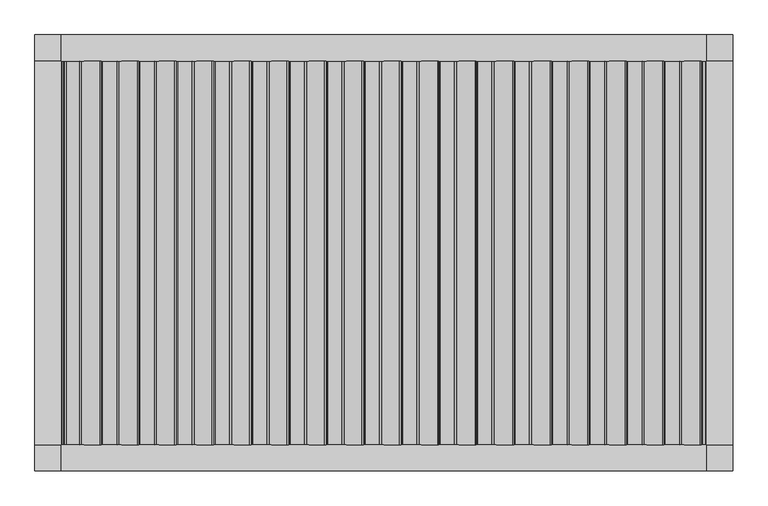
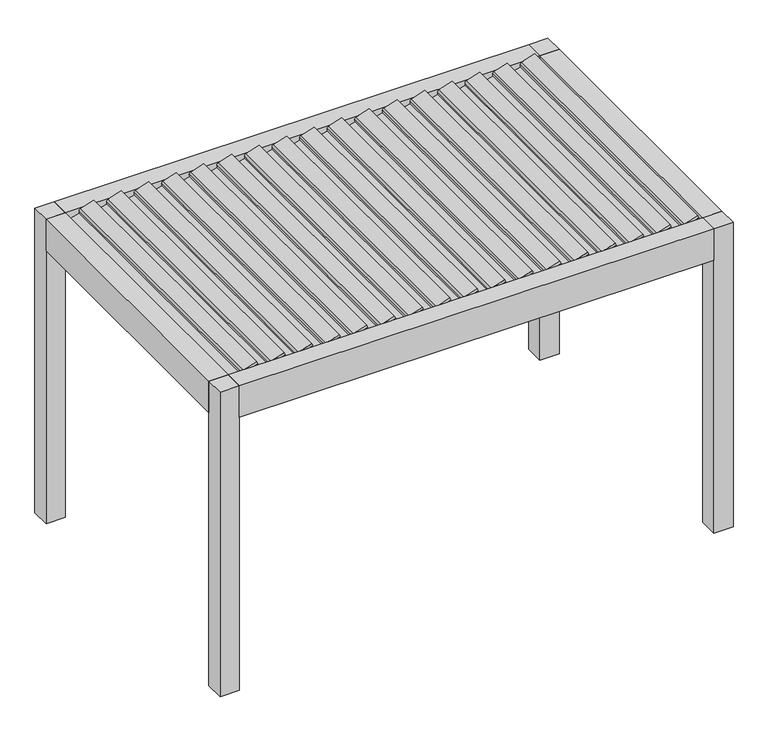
"""IFC4 building model written with IfcOpenShell, lengths in millimetres: proxy geometry, Renson_Camargue_Freestanding_Patio covers : Renson_Camargue_Freestanding_Patio covers."""

from ifc_helpers import new_model, si_unit, point, frame, frame_2d, origin, origin_with_axes, place, context, project, spatial, polyline, circle_curve, trimmed, segment, composite_curve, outline, extrude, source, transform, mapped, element, save


def generic_models_1ebb2ca0(model_context):
    return source(origin(), model_context, "Body", "SweptSolid", [
        extrude(outline(composite_curve([segment(polyline([(2484.4863486, 1582.3167619), (2511.83214, 1577.4949611), (2520.6331137, 1604.9891952), (2538.5732957, 1596.6235509), (2505.0004395, 1491.7419777)]), True, "CONTINUOUS"), segment(trimmed(circle_curve(frame_2d((2490.7145025, 1496.3149422)), 15.0), [point((2505.0004395, 1491.7419777))], [point((2489.4071663, 1481.3720218))], False, "CARTESIAN"), True, "CONTINUOUS"), segment(polyline([(2489.4071663, 1481.3720218), (2469.9552563, 1483.0738434), (2447.2475665, 1398.3275914), (2462.9650208, 1390.9984221), (2458.3022482, 1376.4319246), (2430.6272255, 1381.3117778), (2484.4863486, 1582.3167619)]), True, "CONTINUOUS")], self_intersect=False)), frame((0.0, -1100.0, 0.0), z_axis=(0.0, 1.0, 0.0), x_axis=(0.0, 0.0, 1.0)), (0.0, 0.0, 1.0), 2200.0),
        extrude(outline(composite_curve([segment(polyline([(2484.4863486, 1367.3059571), (2511.83214, 1362.4841563), (2520.6331137, 1389.9783904), (2538.5732957, 1381.6127462), (2505.0004395, 1276.731173)]), True, "CONTINUOUS"), segment(trimmed(circle_curve(frame_2d((2490.7145025, 1281.3041375)), 15.0), [point((2505.0004395, 1276.731173))], [point((2489.4071663, 1266.361217))], False, "CARTESIAN"), True, "CONTINUOUS"), segment(polyline([(2489.4071663, 1266.361217), (2469.9552563, 1268.0630386), (2447.2475665, 1183.3167866), (2462.9650208, 1175.9876173), (2458.3022482, 1161.4211198), (2430.6272255, 1166.300973), (2484.4863486, 1367.3059571)]), True, "CONTINUOUS")], self_intersect=False)), frame((0.0, -1100.0, 0.0), z_axis=(0.0, 1.0, 0.0), x_axis=(0.0, 0.0, 1.0)), (0.0, 0.0, 1.0), 2200.0),
        extrude(outline(composite_curve([segment(polyline([(2484.4863486, 1152.2951523), (2511.83214, 1147.4733515), (2520.6331137, 1174.9675857), (2538.5732957, 1166.6019414), (2505.0004395, 1061.7203682)]), True, "CONTINUOUS"), segment(trimmed(circle_curve(frame_2d((2490.7145025, 1066.2933327)), 15.0), [point((2505.0004395, 1061.7203682))], [point((2489.4071663, 1051.3504122))], False, "CARTESIAN"), True, "CONTINUOUS"), segment(polyline([(2489.4071663, 1051.3504122), (2469.9552563, 1053.0522338), (2447.2475665, 968.3059819), (2462.9650208, 960.9768125), (2458.3022482, 946.410315), (2430.6272255, 951.2901682), (2484.4863486, 1152.2951523)]), True, "CONTINUOUS")], self_intersect=False)), frame((0.0, -1100.0, 0.0), z_axis=(0.0, 1.0, 0.0), x_axis=(0.0, 0.0, 1.0)), (0.0, 0.0, 1.0), 2200.0),
        extrude(outline(composite_curve([segment(polyline([(2484.4863486, 937.2843475), (2511.83214, 932.4625467), (2520.6331137, 959.9567809), (2538.5732957, 951.5911366), (2505.0004395, 846.7095634)]), True, "CONTINUOUS"), segment(trimmed(circle_curve(frame_2d((2490.7145025, 851.2825279)), 15.0), [point((2505.0004395, 846.7095634))], [point((2489.4071663, 836.3396074))], False, "CARTESIAN"), True, "CONTINUOUS"), segment(polyline([(2489.4071663, 836.3396074), (2469.9552563, 838.041429), (2447.2475665, 753.2951771), (2462.9650208, 745.9660077), (2458.3022482, 731.3995103), (2430.6272255, 736.2793635), (2484.4863486, 937.2843475)]), True, "CONTINUOUS")], self_intersect=False)), frame((0.0, -1100.0, 0.0), z_axis=(0.0, 1.0, 0.0), x_axis=(0.0, 0.0, 1.0)), (0.0, 0.0, 1.0), 2200.0),
        extrude(outline(composite_curve([segment(polyline([(2484.4863486, 722.2735428), (2511.83214, 717.4517419), (2520.6331137, 744.9459761), (2538.5732957, 736.5803318), (2505.0004395, 631.6987586)]), True, "CONTINUOUS"), segment(trimmed(circle_curve(frame_2d((2490.7145025, 636.2717231)), 15.0), [point((2505.0004395, 631.6987586))], [point((2489.4071663, 621.3288026))], False, "CARTESIAN"), True, "CONTINUOUS"), segment(polyline([(2489.4071663, 621.3288026), (2469.9552563, 623.0306242), (2447.2475665, 538.2843723), (2462.9650208, 530.955203), (2458.3022482, 516.3887055), (2430.6272255, 521.2685587), (2484.4863486, 722.2735428)]), True, "CONTINUOUS")], self_intersect=False)), frame((0.0, -1100.0, 0.0), z_axis=(0.0, 1.0, 0.0), x_axis=(0.0, 0.0, 1.0)), (0.0, 0.0, 1.0), 2200.0),
        extrude(outline(composite_curve([segment(polyline([(2484.4863486, 507.262738), (2511.83214, 502.4409372), (2520.6331137, 529.9351713), (2538.5732957, 521.569527), (2505.0004395, 416.6879538)]), True, "CONTINUOUS"), segment(trimmed(circle_curve(frame_2d((2490.7145025, 421.2609183)), 15.0), [point((2505.0004395, 416.6879538))], [point((2489.4071663, 406.3179979))], False, "CARTESIAN"), True, "CONTINUOUS"), segment(polyline([(2489.4071663, 406.3179979), (2469.9552563, 408.0198195), (2447.2475665, 323.2735675), (2462.9650208, 315.9443982), (2458.3022482, 301.3779007), (2430.6272255, 306.2577539), (2484.4863486, 507.262738)]), True, "CONTINUOUS")], self_intersect=False)), frame((0.0, -1100.0, 0.0), z_axis=(0.0, 1.0, 0.0), x_axis=(0.0, 0.0, 1.0)), (0.0, 0.0, 1.0), 2200.0),
        extrude(outline(composite_curve([segment(polyline([(2484.4863486, 292.2519332), (2511.83214, 287.4301324), (2520.6331137, 314.9243665), (2538.5732957, 306.5587222), (2505.0004395, 201.6771491)]), True, "CONTINUOUS"), segment(trimmed(circle_curve(frame_2d((2490.7145025, 206.2501135)), 15.0), [point((2505.0004395, 201.6771491))], [point((2489.4071663, 191.3071931))], False, "CARTESIAN"), True, "CONTINUOUS"), segment(polyline([(2489.4071663, 191.3071931), (2469.9552563, 193.0090147), (2447.2475665, 108.2627627), (2462.9650208, 100.9335934), (2458.3022482, 86.3670959), (2430.6272255, 91.2469491), (2484.4863486, 292.2519332)]), True, "CONTINUOUS")], self_intersect=False)), frame((0.0, -1100.0, 0.0), z_axis=(0.0, 1.0, 0.0), x_axis=(0.0, 0.0, 1.0)), (0.0, 0.0, 1.0), 2200.0),
        extrude(outline(composite_curve([segment(polyline([(2484.4863486, 77.2411284), (2511.83214, 72.4193276), (2520.6331137, 99.9135617), (2538.5732957, 91.5479175), (2505.0004395, -13.3336557)]), True, "CONTINUOUS"), segment(trimmed(circle_curve(frame_2d((2490.7145025, -8.7606912)), 15.0), [point((2505.0004395, -13.3336557))], [point((2489.4071663, -23.7036117))], False, "CARTESIAN"), True, "CONTINUOUS"), segment(polyline([(2489.4071663, -23.7036117), (2469.9552563, -22.0017901), (2447.2475665, -106.7480421), (2462.9650208, -114.0772114), (2458.3022482, -128.6437089), (2430.6272255, -123.7638557), (2484.4863486, 77.2411284)]), True, "CONTINUOUS")], self_intersect=False)), frame((0.0, -1100.0, 0.0), z_axis=(0.0, 1.0, 0.0), x_axis=(0.0, 0.0, 1.0)), (0.0, 0.0, 1.0), 2200.0),
        extrude(outline(composite_curve([segment(polyline([(2484.4863486, -137.7696764), (2511.83214, -142.5914772), (2520.6331137, -115.097243), (2538.5732957, -123.4628873), (2505.0004395, -228.3444605)]), True, "CONTINUOUS"), segment(trimmed(circle_curve(frame_2d((2490.7145025, -223.771496)), 15.0), [point((2505.0004395, -228.3444605))], [point((2489.4071663, -238.7144165))], False, "CARTESIAN"), True, "CONTINUOUS"), segment(polyline([(2489.4071663, -238.7144165), (2469.9552563, -237.0125949), (2447.2475665, -321.7588468), (2462.9650208, -329.0880162), (2458.3022482, -343.6545136), (2430.6272255, -338.7746604), (2484.4863486, -137.7696764)]), True, "CONTINUOUS")], self_intersect=False)), frame((0.0, -1100.0, 0.0), z_axis=(0.0, 1.0, 0.0), x_axis=(0.0, 0.0, 1.0)), (0.0, 0.0, 1.0), 2200.0),
        extrude(outline(composite_curve([segment(polyline([(2484.4863486, -352.7804811), (2511.83214, -357.602282), (2520.6331137, -330.1080478), (2538.5732957, -338.4736921), (2505.0004395, -443.3552653)]), True, "CONTINUOUS"), segment(trimmed(circle_curve(frame_2d((2490.7145025, -438.7823008)), 15.0), [point((2505.0004395, -443.3552653))], [point((2489.4071663, -453.7252213))], False, "CARTESIAN"), True, "CONTINUOUS"), segment(polyline([(2489.4071663, -453.7252213), (2469.9552563, -452.0233997), (2447.2475665, -536.7696516), (2462.9650208, -544.0988209), (2458.3022482, -558.6653184), (2430.6272255, -553.7854652), (2484.4863486, -352.7804811)]), True, "CONTINUOUS")], self_intersect=False)), frame((0.0, -1100.0, 0.0), z_axis=(0.0, 1.0, 0.0), x_axis=(0.0, 0.0, 1.0)), (0.0, 0.0, 1.0), 2200.0),
        extrude(outline(composite_curve([segment(polyline([(2484.4863486, -567.7912859), (2511.83214, -572.6130867), (2520.6331137, -545.1188526), (2538.5732957, -553.4844969), (2505.0004395, -658.3660701)]), True, "CONTINUOUS"), segment(trimmed(circle_curve(frame_2d((2490.7145025, -653.7931056)), 15.0), [point((2505.0004395, -658.3660701))], [point((2489.4071663, -668.7360261))], False, "CARTESIAN"), True, "CONTINUOUS"), segment(polyline([(2489.4071663, -668.7360261), (2469.9552563, -667.0342044), (2447.2475665, -751.7804564), (2462.9650208, -759.1096257), (2458.3022482, -773.6761232), (2430.6272255, -768.79627), (2484.4863486, -567.7912859)]), True, "CONTINUOUS")], self_intersect=False)), frame((0.0, -1100.0, 0.0), z_axis=(0.0, 1.0, 0.0), x_axis=(0.0, 0.0, 1.0)), (0.0, 0.0, 1.0), 2200.0),
        extrude(outline(composite_curve([segment(polyline([(2484.4863486, -782.8020907), (2511.83214, -787.6238915), (2520.6331137, -760.1296574), (2538.5732957, -768.4953017), (2505.0004395, -873.3768749)]), True, "CONTINUOUS"), segment(trimmed(circle_curve(frame_2d((2490.7145025, -868.8039104)), 15.0), [point((2505.0004395, -873.3768749))], [point((2489.4071663, -883.7468308))], False, "CARTESIAN"), True, "CONTINUOUS"), segment(polyline([(2489.4071663, -883.7468308), (2469.9552563, -882.0450092), (2447.2475665, -966.7912612), (2462.9650208, -974.1204305), (2458.3022482, -988.686928), (2430.6272255, -983.8070748), (2484.4863486, -782.8020907)]), True, "CONTINUOUS")], self_intersect=False)), frame((0.0, -1100.0, 0.0), z_axis=(0.0, 1.0, 0.0), x_axis=(0.0, 0.0, 1.0)), (0.0, 0.0, 1.0), 2200.0),
        extrude(outline(composite_curve([segment(polyline([(2484.4863486, -997.8128955), (2511.83214, -1002.6346963), (2520.6331137, -975.1404622), (2538.5732957, -983.5061064), (2505.0004395, -1088.3876796)]), True, "CONTINUOUS"), segment(trimmed(circle_curve(frame_2d((2490.7145025, -1083.8147151)), 15.0), [point((2505.0004395, -1088.3876796))], [point((2489.4071663, -1098.7576356))], False, "CARTESIAN"), True, "CONTINUOUS"), segment(polyline([(2489.4071663, -1098.7576356), (2469.9552563, -1097.055814), (2447.2475665, -1181.802066), (2462.9650208, -1189.1312353), (2458.3022482, -1203.6977328), (2430.6272255, -1198.8178796), (2484.4863486, -997.8128955)]), True, "CONTINUOUS")], self_intersect=False)), frame((0.0, -1100.0, 0.0), z_axis=(0.0, 1.0, 0.0), x_axis=(0.0, 0.0, 1.0)), (0.0, 0.0, 1.0), 2200.0),
        extrude(outline(composite_curve([segment(polyline([(2484.4863486, -1212.8237003), (2511.83214, -1217.6455011), (2520.6331137, -1190.1512669), (2538.5732957, -1198.5169112), (2505.0004395, -1303.3984844)]), True, "CONTINUOUS"), segment(trimmed(circle_curve(frame_2d((2490.7145025, -1298.8255199)), 15.0), [point((2505.0004395, -1303.3984844))], [point((2489.4071663, -1313.7684404))], False, "CARTESIAN"), True, "CONTINUOUS"), segment(polyline([(2489.4071663, -1313.7684404), (2469.9552563, -1312.0666188), (2447.2475665, -1396.8128707), (2462.9650208, -1404.1420401), (2458.3022482, -1418.7085376), (2430.6272255, -1413.8286844), (2484.4863486, -1212.8237003)]), True, "CONTINUOUS")], self_intersect=False)), frame((0.0, -1100.0, 0.0), z_axis=(0.0, 1.0, 0.0), x_axis=(0.0, 0.0, 1.0)), (0.0, 0.0, 1.0), 2200.0),
        extrude(outline(composite_curve([segment(polyline([(2484.4863486, -1427.8345051), (2511.83214, -1432.6563059), (2520.6331137, -1405.1620717), (2538.5732957, -1413.527716), (2505.0004395, -1518.4092892)]), True, "CONTINUOUS"), segment(trimmed(circle_curve(frame_2d((2490.7145025, -1513.8363247)), 15.0), [point((2505.0004395, -1518.4092892))], [point((2489.4071663, -1528.7792452))], False, "CARTESIAN"), True, "CONTINUOUS"), segment(polyline([(2489.4071663, -1528.7792452), (2469.9552563, -1527.0774236), (2447.2475665, -1611.8236755), (2462.9650208, -1619.1528448), (2458.3022482, -1633.7193423), (2430.6272255, -1628.8394891), (2484.4863486, -1427.8345051)]), True, "CONTINUOUS")], self_intersect=False)), frame((0.0, -1100.0, 0.0), z_axis=(0.0, 1.0, 0.0), x_axis=(0.0, 0.0, 1.0)), (0.0, 0.0, 1.0), 2200.0),
        extrude(outline(composite_curve([segment(polyline([(2484.4863486, 1797.3275667), (2511.83214, 1792.5057659), (2520.6331137, 1820.0), (2538.5732957, 1811.6343557), (2505.0004395, 1706.7527825)]), True, "CONTINUOUS"), segment(trimmed(circle_curve(frame_2d((2490.7145025, 1711.325747)), 15.0), [point((2505.0004395, 1706.7527825))], [point((2489.4071663, 1696.3828265))], False, "CARTESIAN"), True, "CONTINUOUS"), segment(polyline([(2489.4071663, 1696.3828265), (2469.9552563, 1698.0846482), (2447.2475665, 1613.3383962), (2462.9650208, 1606.0092269), (2458.3022482, 1591.4427294), (2430.6272255, 1596.3225826), (2484.4863486, 1797.3275667)]), True, "CONTINUOUS")], self_intersect=False)), frame((0.0, -1100.0, 0.0), z_axis=(0.0, 1.0, 0.0), x_axis=(0.0, 0.0, 1.0)), (0.0, 0.0, 1.0), 2200.0),
        extrude(outline(composite_curve([segment(polyline([(2484.4863486, -1642.8453098), (2511.83214, -1647.6671107), (2520.6331137, -1620.1728765), (2538.5732957, -1628.5385208), (2505.0004395, -1733.420094)]), True, "CONTINUOUS"), segment(trimmed(circle_curve(frame_2d((2490.7145025, -1728.8471295)), 15.0), [point((2505.0004395, -1733.420094))], [point((2489.4071663, -1743.79005))], False, "CARTESIAN"), True, "CONTINUOUS"), segment(polyline([(2489.4071663, -1743.79005), (2469.9552563, -1742.0882283), (2447.2475665, -1826.8344803), (2462.9650208, -1834.1636496), (2458.3022482, -1848.7301471), (2430.6272255, -1843.8502939), (2484.4863486, -1642.8453098)]), True, "CONTINUOUS")], self_intersect=False)), frame((0.0, -1100.0, 0.0), z_axis=(0.0, 1.0, 0.0), x_axis=(0.0, 0.0, 1.0)), (0.0, 0.0, 1.0), 2200.0),
        extrude(outline(polyline([(2441.6559373, -1850.0), (2441.6559373, -1824.0), (2455.6555802, -1820.2487113), (2455.6555802, -1829.5940945), (2471.400763, -1845.0), (2479.2449277, -1845.0), (2479.6823598, -1850.0), (2441.6559373, -1850.0)])), frame((0.0, -1100.0, 0.0), z_axis=(0.0, 1.0, 0.0), x_axis=(0.0, 0.0, 1.0)), (0.0, 0.0, 1.0), 2200.0),
        extrude(outline(polyline([(-1850.0, -1100.0), (-2000.0, -1100.0), (-2000.0, 1100.0), (-1850.0, 1100.0), (-1850.0, -1100.0)])), frame((0.0, 0.0, 2250.0), z_axis=(0.0, 0.0, 1.0), x_axis=(1.0, 0.0, 0.0)), (0.0, 0.0, 1.0), 260.0),
        extrude(outline(polyline([(2510.0, 2000.0), (2510.0, 1850.0), (2479.6904658, 1850.0), (2479.2449277, 1845.0), (2471.400763, 1845.0), (2455.6555802, 1829.2544156), (2455.6555802, 1819.9090324), (2441.6559373, 1823.6603211), (2441.6559373, 1850.0), (2250.0, 1850.0), (2250.0, 2000.0), (2510.0, 2000.0)])), frame((0.0, -1100.0, 0.0), z_axis=(0.0, 1.0, 0.0), x_axis=(0.0, 0.0, 1.0)), (0.0, 0.0, 1.0), 2200.0),
        extrude(outline(polyline([(-1100.0, 2510.0), (-1100.0, 2322.0), (-1030.0000001, 2322.0), (-1030.0000001, 2250.0), (-1250.0, 2250.0), (-1250.0, 2510.0), (-1100.0, 2510.0)])), frame((-1850.0, 0.0, 0.0), z_axis=(1.0, 0.0, 0.0), x_axis=(0.0, 1.0, 0.0)), (0.0, 0.0, 1.0), 3700.0),
        extrude(outline(polyline([(1250.0, 2250.0), (1030.0000001, 2250.0), (1030.0000001, 2322.0), (1100.0, 2322.0), (1100.0, 2510.0), (1250.0, 2510.0), (1250.0, 2250.0)])), frame((-1850.0, 0.0, 0.0), z_axis=(1.0, 0.0, 0.0), x_axis=(0.0, 1.0, 0.0)), (0.0, 0.0, 1.0), 3700.0),
        extrude(outline(polyline([(-1850.0, 1250.0), (-1850.0, 1100.0), (-2000.0, 1100.0), (-2000.0, 1250.0), (-1850.0, 1250.0)])), origin_with_axes(), (0.0, 0.0, 1.0), 2510.0),
        extrude(outline(polyline([(2000.0, 1250.0), (2000.0, 1100.0), (1850.0, 1100.0), (1850.0, 1250.0), (2000.0, 1250.0)])), origin_with_axes(), (0.0, 0.0, 1.0), 2510.0),
        extrude(outline(polyline([(2000.0, -1100.0), (2000.0, -1250.0), (1850.0, -1250.0), (1850.0, -1100.0), (2000.0, -1100.0)])), origin_with_axes(), (0.0, 0.0, 1.0), 2510.0),
        extrude(outline(polyline([(-1850.0, -1100.0), (-1850.0, -1250.0), (-2000.0, -1250.0), (-2000.0, -1100.0), (-1850.0, -1100.0)])), origin_with_axes(), (0.0, 0.0, 1.0), 2510.0),
    ])


if __name__ == "__main__":
    model = new_model("IFC4")
    model_context = context("Model", 3, world=origin())
    ifc_project = project(units=[si_unit("LENGTHUNIT", "METRE", prefix="MILLI")], contexts=[model_context])
    site = spatial("IfcSite", under=ifc_project)
    building = spatial("IfcBuilding", under=site)
    placement = place(None, origin())
    generic_models_shape = generic_models_1ebb2ca0(model_context)
    element("IfcBuildingElementProxy", 1, Name="Renson_Camargue_Freestanding_Patio covers : Renson_Camargue_Freestanding_Patio covers", ObjectType="Renson_Camargue_Freestanding_Patio covers : Renson_Camargue_Freestanding_Patio covers", at=placement, inside=building, context=model_context, shape_type="MappedRepresentation", body=[
        mapped(generic_models_shape, transform((0.0, 0.0, 0.0), x_axis=(1.0, 0.0, 0.0), y_axis=(0.0, 1.0, 0.0), z_axis=(0.0, 0.0, 1.0))),
    ])
    save(model, "model.ifc")
